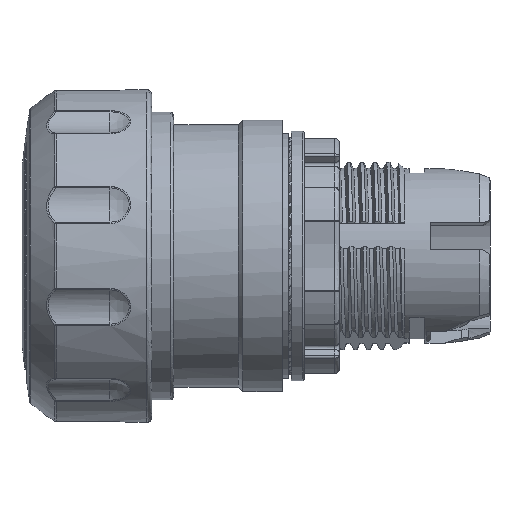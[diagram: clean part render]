
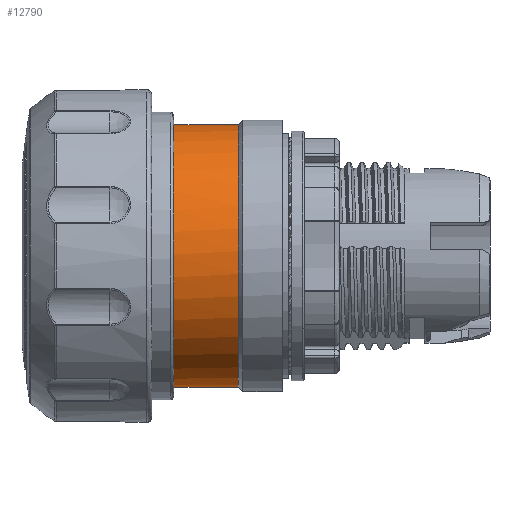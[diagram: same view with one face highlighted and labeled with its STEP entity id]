
A CAD part, left-side view. The second image highlights one B-rep face of the part: STEP entity #12790.
In plain terms, the highlighted cylindrical face has radius 15 mm (diameter 30 mm), a full revolution.
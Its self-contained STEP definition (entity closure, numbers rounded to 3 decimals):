
#9278=CYLINDRICAL_SURFACE('',#30591,15.);
#12393=FACE_BOUND('',#15155,.T.);
#12394=FACE_BOUND('',#15156,.T.);
#12790=ADVANCED_FACE('',(#12393,#12394),#9278,.T.);
#15155=EDGE_LOOP('',(#18217));
#15156=EDGE_LOOP('',(#18218));
#16522=CIRCLE('',#30589,15.);
#16523=CIRCLE('',#30590,15.);
#18217=ORIENTED_EDGE('',*,*,#26620,.F.);
#18218=ORIENTED_EDGE('',*,*,#26621,.F.);
#24306=VERTEX_POINT('',#42188);
#24307=VERTEX_POINT('',#42190);
#26620=EDGE_CURVE('',#24306,#24306,#16522,.T.);
#26621=EDGE_CURVE('',#24307,#24307,#16523,.T.);
#30589=AXIS2_PLACEMENT_3D('',#42187,#32772,#32773);
#30590=AXIS2_PLACEMENT_3D('',#42189,#32774,#32775);
#30591=AXIS2_PLACEMENT_3D('',#42191,#32776,#32777);
#32772=DIRECTION('',(0.,1.,0.));
#32773=DIRECTION('',(0.,0.,1.));
#32774=DIRECTION('',(0.,-1.,0.));
#32775=DIRECTION('',(0.67,0.,0.742));
#32776=DIRECTION('',(0.,1.,0.));
#32777=DIRECTION('',(0.973,0.,-0.233));
#42187=CARTESIAN_POINT('',(0.487,7.294,0.964));
#42188=CARTESIAN_POINT('',(0.487,7.294,15.964));
#42189=CARTESIAN_POINT('',(0.487,-0.306,0.964));
#42190=CARTESIAN_POINT('',(10.543,-0.306,12.094));
#42191=CARTESIAN_POINT('',(0.487,-6.656,0.964));
